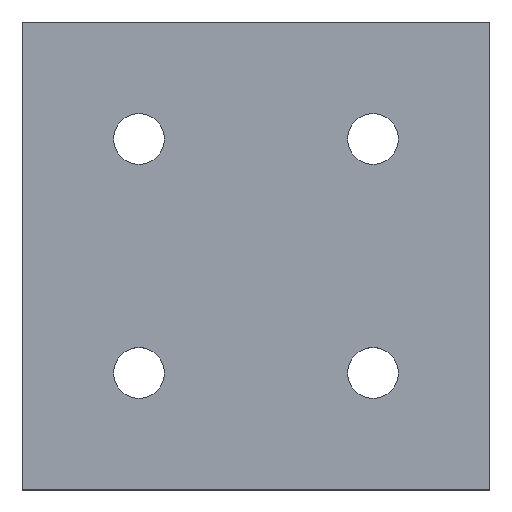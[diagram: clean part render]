
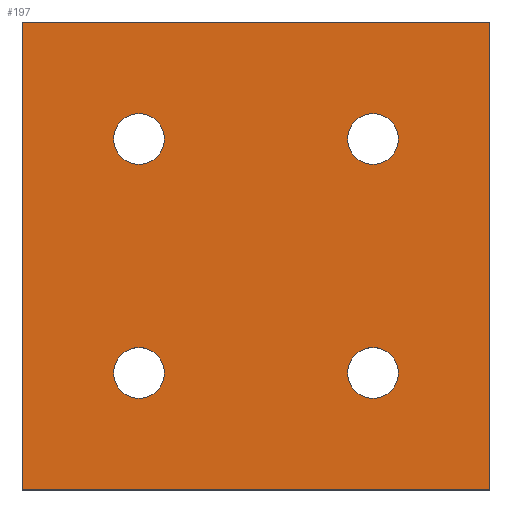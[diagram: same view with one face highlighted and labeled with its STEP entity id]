
A CAD part, top view. The second image highlights one B-rep face of the part: STEP entity #197.
In plain terms, the highlighted planar face has unit normal (0, 0, 1).
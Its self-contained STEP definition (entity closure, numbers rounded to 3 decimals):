
#15=FACE_BOUND('',#48,.T.);
#16=FACE_BOUND('',#49,.T.);
#17=FACE_BOUND('',#50,.T.);
#18=FACE_BOUND('',#51,.T.);
#27=PLANE('',#229);
#37=FACE_OUTER_BOUND('',#47,.T.);
#47=EDGE_LOOP('',(#169,#170,#171,#172));
#48=EDGE_LOOP('',(#173));
#49=EDGE_LOOP('',(#174));
#50=EDGE_LOOP('',(#175));
#51=EDGE_LOOP('',(#176));
#63=LINE('',#317,#79);
#66=LINE('',#323,#82);
#69=LINE('',#329,#85);
#72=LINE('',#333,#88);
#79=VECTOR('',#265,10.);
#82=VECTOR('',#270,10.);
#85=VECTOR('',#275,10.);
#88=VECTOR('',#280,10.);
#89=CIRCLE('',#214,3.25);
#91=CIRCLE('',#217,3.25);
#93=CIRCLE('',#220,3.25);
#95=CIRCLE('',#223,3.25);
#97=VERTEX_POINT('',#287);
#99=VERTEX_POINT('',#293);
#101=VERTEX_POINT('',#299);
#103=VERTEX_POINT('',#305);
#107=VERTEX_POINT('',#314);
#108=VERTEX_POINT('',#316);
#110=VERTEX_POINT('',#322);
#112=VERTEX_POINT('',#328);
#113=EDGE_CURVE('',#97,#97,#89,.T.);
#116=EDGE_CURVE('',#99,#99,#91,.T.);
#119=EDGE_CURVE('',#101,#101,#93,.T.);
#122=EDGE_CURVE('',#103,#103,#95,.T.);
#127=EDGE_CURVE('',#108,#107,#63,.T.);
#130=EDGE_CURVE('',#110,#108,#66,.T.);
#133=EDGE_CURVE('',#112,#110,#69,.T.);
#136=EDGE_CURVE('',#107,#112,#72,.T.);
#169=ORIENTED_EDGE('',*,*,#136,.T.);
#170=ORIENTED_EDGE('',*,*,#133,.T.);
#171=ORIENTED_EDGE('',*,*,#130,.T.);
#172=ORIENTED_EDGE('',*,*,#127,.T.);
#173=ORIENTED_EDGE('',*,*,#122,.T.);
#174=ORIENTED_EDGE('',*,*,#119,.T.);
#175=ORIENTED_EDGE('',*,*,#116,.T.);
#176=ORIENTED_EDGE('',*,*,#113,.T.);
#197=ADVANCED_FACE('',(#37,#15,#16,#17,#18),#27,.T.);
#214=AXIS2_PLACEMENT_3D('',#288,#235,#236);
#217=AXIS2_PLACEMENT_3D('',#294,#242,#243);
#220=AXIS2_PLACEMENT_3D('',#300,#249,#250);
#223=AXIS2_PLACEMENT_3D('',#306,#256,#257);
#229=AXIS2_PLACEMENT_3D('',#334,#281,#282);
#235=DIRECTION('center_axis',(0.,0.,-1.));
#236=DIRECTION('ref_axis',(1.,0.,0.));
#242=DIRECTION('center_axis',(0.,0.,-1.));
#243=DIRECTION('ref_axis',(1.,0.,0.));
#249=DIRECTION('center_axis',(0.,0.,-1.));
#250=DIRECTION('ref_axis',(1.,0.,0.));
#256=DIRECTION('center_axis',(0.,0.,-1.));
#257=DIRECTION('ref_axis',(1.,0.,0.));
#265=DIRECTION('',(-1.,0.,0.));
#270=DIRECTION('',(0.,1.,0.));
#275=DIRECTION('',(1.,0.,0.));
#280=DIRECTION('',(0.,-1.,0.));
#281=DIRECTION('center_axis',(0.,0.,1.));
#282=DIRECTION('ref_axis',(1.,0.,0.));
#287=CARTESIAN_POINT('',(11.75,15.,4.));
#288=CARTESIAN_POINT('Origin',(15.,15.,4.));
#293=CARTESIAN_POINT('',(-18.25,15.,4.));
#294=CARTESIAN_POINT('Origin',(-15.,15.,4.));
#299=CARTESIAN_POINT('',(-18.25,-15.,4.));
#300=CARTESIAN_POINT('Origin',(-15.,-15.,4.));
#305=CARTESIAN_POINT('',(11.75,-15.,4.));
#306=CARTESIAN_POINT('Origin',(15.,-15.,4.));
#314=CARTESIAN_POINT('',(-30.,30.,4.));
#316=CARTESIAN_POINT('',(30.,30.,4.));
#317=CARTESIAN_POINT('',(30.,30.,4.));
#322=CARTESIAN_POINT('',(30.,-30.,4.));
#323=CARTESIAN_POINT('',(30.,-30.,4.));
#328=CARTESIAN_POINT('',(-30.,-30.,4.));
#329=CARTESIAN_POINT('',(-30.,-30.,4.));
#333=CARTESIAN_POINT('',(-30.,30.,4.));
#334=CARTESIAN_POINT('Origin',(0.,0.,4.));
